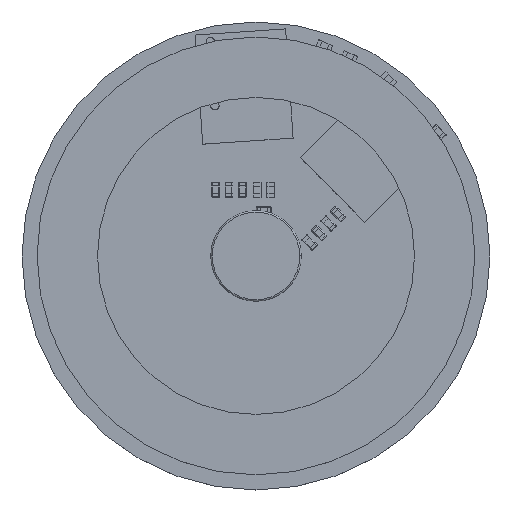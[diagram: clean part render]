
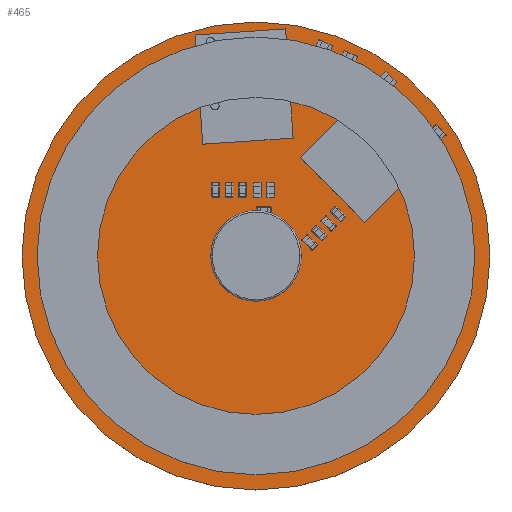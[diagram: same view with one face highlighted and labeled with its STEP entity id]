
A CAD part, top view. The second image highlights one B-rep face of the part: STEP entity #465.
In plain terms, the highlighted planar face has unit normal (0, 0, 1).
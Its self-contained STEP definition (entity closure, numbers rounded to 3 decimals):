
#142=CARTESIAN_POINT('',(0.,0.,0.8));
#143=DIRECTION('',(0.,0.,1.));
#144=DIRECTION('',(1.,0.,0.));
#145=AXIS2_PLACEMENT_3D('',#142,#143,#144);
#150=CARTESIAN_POINT('',(0.,0.,0.8));
#151=DIRECTION('',(0.,0.,1.));
#152=DIRECTION('',(-1.,0.,0.));
#153=AXIS2_PLACEMENT_3D('',#150,#151,#152);
#158=CARTESIAN_POINT('',(-12.667,2.924,0.8));
#159=DIRECTION('',(0.,0.,1.));
#160=DIRECTION('',(1.,0.,0.));
#161=AXIS2_PLACEMENT_3D('',#158,#159,#160);
#166=CARTESIAN_POINT('',(-12.667,2.924,0.8));
#167=DIRECTION('',(0.,0.,1.));
#168=DIRECTION('',(-1.,0.,0.));
#169=AXIS2_PLACEMENT_3D('',#166,#167,#168);
#174=CARTESIAN_POINT('',(-11.37,6.303,0.8));
#175=DIRECTION('',(0.,0.,1.));
#176=DIRECTION('',(1.,0.,0.));
#177=AXIS2_PLACEMENT_3D('',#174,#175,#176);
#182=CARTESIAN_POINT('',(-11.37,6.303,0.8));
#183=DIRECTION('',(0.,0.,1.));
#184=DIRECTION('',(-1.,0.,0.));
#185=AXIS2_PLACEMENT_3D('',#182,#183,#184);
#190=CARTESIAN_POINT('',(-6.303,-11.37,0.8));
#191=DIRECTION('',(0.,0.,1.));
#192=DIRECTION('',(1.,0.,0.));
#193=AXIS2_PLACEMENT_3D('',#190,#191,#192);
#198=CARTESIAN_POINT('',(-6.303,-11.37,0.8));
#199=DIRECTION('',(0.,0.,1.));
#200=DIRECTION('',(-1.,0.,0.));
#201=AXIS2_PLACEMENT_3D('',#198,#199,#200);
#206=CARTESIAN_POINT('',(11.37,-6.303,0.8));
#207=DIRECTION('',(0.,0.,1.));
#208=DIRECTION('',(1.,0.,0.));
#209=AXIS2_PLACEMENT_3D('',#206,#207,#208);
#214=CARTESIAN_POINT('',(11.37,-6.303,0.8));
#215=DIRECTION('',(0.,0.,1.));
#216=DIRECTION('',(-1.,0.,0.));
#217=AXIS2_PLACEMENT_3D('',#214,#215,#216);
#222=CARTESIAN_POINT('',(12.667,-2.924,0.8));
#223=DIRECTION('',(0.,0.,1.));
#224=DIRECTION('',(1.,0.,0.));
#225=AXIS2_PLACEMENT_3D('',#222,#223,#224);
#230=CARTESIAN_POINT('',(12.667,-2.924,0.8));
#231=DIRECTION('',(0.,0.,1.));
#232=DIRECTION('',(-1.,0.,0.));
#233=AXIS2_PLACEMENT_3D('',#230,#231,#232);
#308=CARTESIAN_POINT('',(-15.5,0.,0.8));
#310=VERTEX_POINT('',#308);
#312=CARTESIAN_POINT('',(15.5,0.,0.8));
#314=VERTEX_POINT('',#312);
#316=CARTESIAN_POINT('',(-13.467,2.924,0.8));
#318=VERTEX_POINT('',#316);
#320=CARTESIAN_POINT('',(-11.867,2.924,0.8));
#322=VERTEX_POINT('',#320);
#324=CARTESIAN_POINT('',(-12.37,6.303,0.8));
#326=VERTEX_POINT('',#324);
#328=CARTESIAN_POINT('',(-10.37,6.303,0.8));
#330=VERTEX_POINT('',#328);
#332=CARTESIAN_POINT('',(-7.303,-11.37,0.8));
#334=VERTEX_POINT('',#332);
#336=CARTESIAN_POINT('',(-5.303,-11.37,0.8));
#338=VERTEX_POINT('',#336);
#340=CARTESIAN_POINT('',(10.37,-6.303,0.8));
#342=VERTEX_POINT('',#340);
#344=CARTESIAN_POINT('',(12.37,-6.303,0.8));
#346=VERTEX_POINT('',#344);
#348=CARTESIAN_POINT('',(11.867,-2.924,0.8));
#350=VERTEX_POINT('',#348);
#352=CARTESIAN_POINT('',(13.467,-2.924,0.8));
#354=VERTEX_POINT('',#352);
#426=CARTESIAN_POINT('',(15.5,0.,0.8));
#427=DIRECTION('',(0.,0.,-1.));
#428=DIRECTION('',(-1.,0.,0.));
#429=AXIS2_PLACEMENT_3D('',#426,#427,#428);
#430=PLANE('',#429);
#431=ORIENTED_EDGE('',*,*,#420,.F.);
#432=ORIENTED_EDGE('',*,*,#365,.F.);
#433=EDGE_LOOP('',(#431,#432));
#434=FACE_OUTER_BOUND('',#433,.F.);
#436=ORIENTED_EDGE('',*,*,#435,.T.);
#438=ORIENTED_EDGE('',*,*,#437,.T.);
#439=EDGE_LOOP('',(#436,#438));
#440=FACE_BOUND('',#439,.F.);
#442=ORIENTED_EDGE('',*,*,#441,.T.);
#444=ORIENTED_EDGE('',*,*,#443,.T.);
#445=EDGE_LOOP('',(#442,#444));
#446=FACE_BOUND('',#445,.F.);
#448=ORIENTED_EDGE('',*,*,#447,.T.);
#450=ORIENTED_EDGE('',*,*,#449,.T.);
#451=EDGE_LOOP('',(#448,#450));
#452=FACE_BOUND('',#451,.F.);
#454=ORIENTED_EDGE('',*,*,#453,.T.);
#456=ORIENTED_EDGE('',*,*,#455,.T.);
#457=EDGE_LOOP('',(#454,#456));
#458=FACE_BOUND('',#457,.F.);
#460=ORIENTED_EDGE('',*,*,#459,.T.);
#462=ORIENTED_EDGE('',*,*,#461,.T.);
#463=EDGE_LOOP('',(#460,#462));
#464=FACE_BOUND('',#463,.F.);
#465=ADVANCED_FACE('',(#434,#440,#446,#452,#458,#464),#430,.F.);
#146=CIRCLE('',#145,15.5);
#154=CIRCLE('',#153,15.5);
#162=CIRCLE('',#161,0.8);
#170=CIRCLE('',#169,0.8);
#178=CIRCLE('',#177,1.);
#186=CIRCLE('',#185,1.);
#194=CIRCLE('',#193,1.);
#202=CIRCLE('',#201,1.);
#210=CIRCLE('',#209,1.);
#218=CIRCLE('',#217,1.);
#226=CIRCLE('',#225,0.8);
#234=CIRCLE('',#233,0.8);
#365=EDGE_CURVE('',#310,#314,#154,.T.);
#420=EDGE_CURVE('',#314,#310,#146,.T.);
#435=EDGE_CURVE('',#322,#318,#162,.T.);
#437=EDGE_CURVE('',#318,#322,#170,.T.);
#441=EDGE_CURVE('',#330,#326,#178,.T.);
#443=EDGE_CURVE('',#326,#330,#186,.T.);
#447=EDGE_CURVE('',#338,#334,#194,.T.);
#449=EDGE_CURVE('',#334,#338,#202,.T.);
#453=EDGE_CURVE('',#346,#342,#210,.T.);
#455=EDGE_CURVE('',#342,#346,#218,.T.);
#459=EDGE_CURVE('',#354,#350,#226,.T.);
#461=EDGE_CURVE('',#350,#354,#234,.T.);
